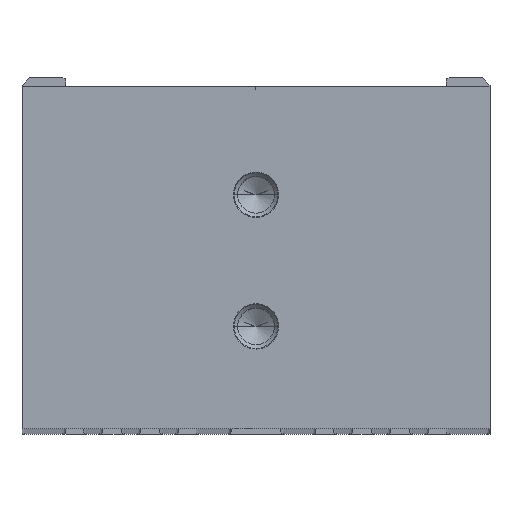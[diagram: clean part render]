
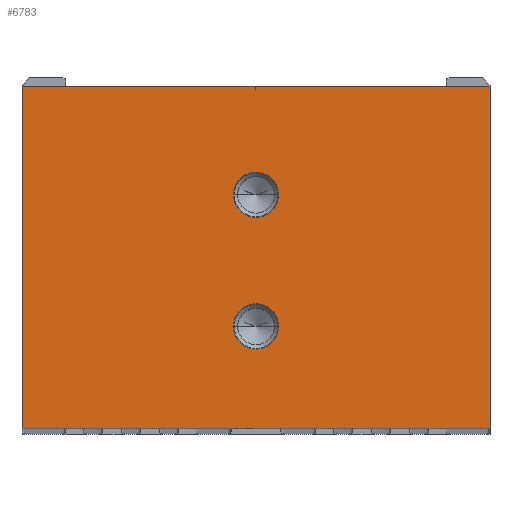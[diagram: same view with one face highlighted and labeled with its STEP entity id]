
A CAD part, top view. The second image highlights one B-rep face of the part: STEP entity #6783.
In plain terms, the highlighted planar face has unit normal (0, 0, 1).
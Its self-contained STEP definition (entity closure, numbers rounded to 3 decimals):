
#1420=DIRECTION('',(0.,-1.,0.));
#1421=VECTOR('',#1420,23.4);
#1422=CARTESIAN_POINT('',(-16.,11.402,104.5));
#1423=LINE('',#1422,#1421);
#1424=DIRECTION('',(-1.,0.,0.));
#1425=VECTOR('',#1424,32.);
#1426=CARTESIAN_POINT('',(16.,11.402,104.5));
#1427=LINE('',#1426,#1425);
#1428=DIRECTION('',(0.,1.,0.));
#1429=VECTOR('',#1428,23.4);
#1430=CARTESIAN_POINT('',(16.,-11.998,104.5));
#1431=LINE('',#1430,#1429);
#1432=DIRECTION('',(1.,0.,0.));
#1433=VECTOR('',#1432,32.);
#1434=CARTESIAN_POINT('',(-16.,-11.998,104.5));
#1435=LINE('',#1434,#1433);
#1436=CARTESIAN_POINT('',(0.,4.002,104.5));
#1437=DIRECTION('',(0.,0.,-1.));
#1438=DIRECTION('',(1.,0.,0.));
#1439=AXIS2_PLACEMENT_3D('',#1436,#1437,#1438);
#1441=CARTESIAN_POINT('',(0.,4.002,104.5));
#1442=DIRECTION('',(0.,0.,-1.));
#1443=DIRECTION('',(-1.,0.,0.));
#1444=AXIS2_PLACEMENT_3D('',#1441,#1442,#1443);
#1446=CARTESIAN_POINT('',(0.,-4.998,104.5));
#1447=DIRECTION('',(0.,0.,-1.));
#1448=DIRECTION('',(1.,0.,0.));
#1449=AXIS2_PLACEMENT_3D('',#1446,#1447,#1448);
#1451=CARTESIAN_POINT('',(0.,-4.998,104.5));
#1452=DIRECTION('',(0.,0.,-1.));
#1453=DIRECTION('',(-1.,0.,0.));
#1454=AXIS2_PLACEMENT_3D('',#1451,#1452,#1453);
#3226=CARTESIAN_POINT('',(-16.,11.402,104.5));
#3227=CARTESIAN_POINT('',(-16.,-11.998,104.5));
#3228=VERTEX_POINT('',#3226);
#3229=VERTEX_POINT('',#3227);
#3230=CARTESIAN_POINT('',(16.,-11.998,104.5));
#3231=VERTEX_POINT('',#3230);
#3232=CARTESIAN_POINT('',(16.,11.402,104.5));
#3233=VERTEX_POINT('',#3232);
#4158=CARTESIAN_POINT('',(1.55,4.002,104.5));
#4159=CARTESIAN_POINT('',(-1.55,4.002,104.5));
#4160=VERTEX_POINT('',#4158);
#4161=VERTEX_POINT('',#4159);
#4166=CARTESIAN_POINT('',(1.55,-4.998,104.5));
#4167=CARTESIAN_POINT('',(-1.55,-4.998,
104.5));
#4168=VERTEX_POINT('',#4166);
#4169=VERTEX_POINT('',#4167);
#6760=CARTESIAN_POINT('',(0.,0.,104.5));
#6761=DIRECTION('',(0.,0.,1.));
#6762=DIRECTION('',(1.,0.,0.));
#6763=AXIS2_PLACEMENT_3D('',#6760,#6761,#6762);
#6764=PLANE('',#6763);
#6765=ORIENTED_EDGE('',*,*,#4354,.F.);
#6766=ORIENTED_EDGE('',*,*,#4259,.F.);
#6767=ORIENTED_EDGE('',*,*,#5112,.F.);
#6768=ORIENTED_EDGE('',*,*,#6485,.F.);
#6769=EDGE_LOOP('',(#6765,#6766,#6767,#6768));
#6770=FACE_OUTER_BOUND('',#6769,.F.);
#6772=ORIENTED_EDGE('',*,*,#6771,.F.);
#6774=ORIENTED_EDGE('',*,*,#6773,.F.);
#6775=EDGE_LOOP('',(#6772,#6774));
#6776=FACE_BOUND('',#6775,.F.);
#6778=ORIENTED_EDGE('',*,*,#6777,.F.);
#6780=ORIENTED_EDGE('',*,*,#6779,.F.);
#6781=EDGE_LOOP('',(#6778,#6780));
#6782=FACE_BOUND('',#6781,.F.);
#1440=CIRCLE('',#1439,1.55);
#1445=CIRCLE('',#1444,1.55);
#1450=CIRCLE('',#1449,1.55);
#1455=CIRCLE('',#1454,1.55);
#4259=EDGE_CURVE('',#3233,#3228,#1427,.T.);
#4354=EDGE_CURVE('',#3228,#3229,#1423,.T.);
#5112=EDGE_CURVE('',#3231,#3233,#1431,.T.);
#6485=EDGE_CURVE('',#3229,#3231,#1435,.T.);
#6771=EDGE_CURVE('',#4160,#4161,#1440,.T.);
#6773=EDGE_CURVE('',#4161,#4160,#1445,.T.);
#6777=EDGE_CURVE('',#4168,#4169,#1450,.T.);
#6779=EDGE_CURVE('',#4169,#4168,#1455,.T.);
#6783=ADVANCED_FACE('',(#6770,#6776,#6782),#6764,.T.);
